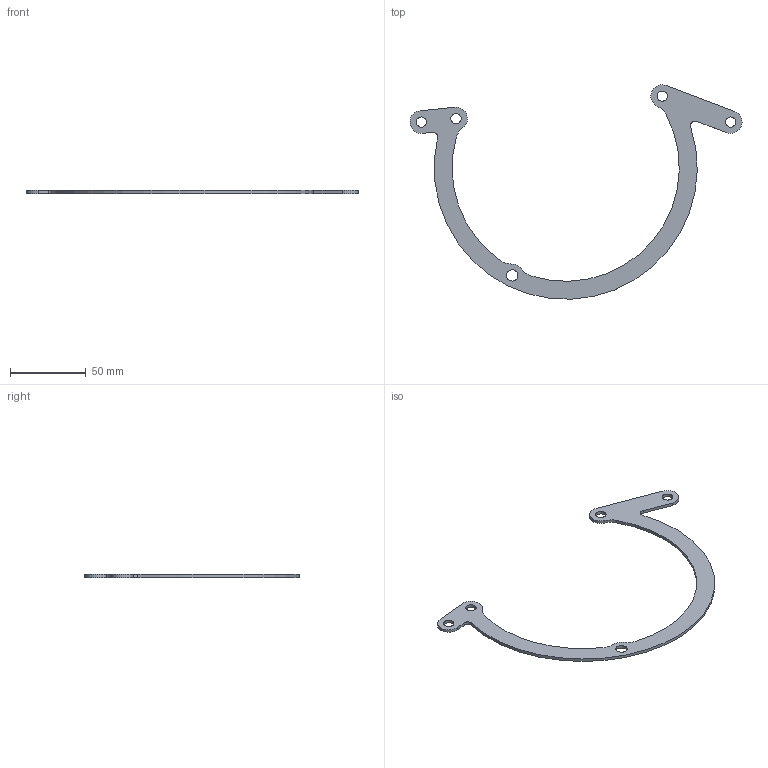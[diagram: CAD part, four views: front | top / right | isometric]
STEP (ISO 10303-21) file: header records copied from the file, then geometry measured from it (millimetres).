
FILE_DESCRIPTION (( 'STEP AP214' ), '1' );
FILE_NAME ('RC51 (SP2) - SPAL Bracket(L).STEP', '2025-09-02T18:18:09', ( '' ), ( '' ), 'SwSTEP 2.0', 'SolidWorks 2020', '' );
FILE_SCHEMA (( 'AUTOMOTIVE_DESIGN' ));
Length unit declared in the file: millimetre
Products named in the file (1): RC51 (SP2) - SPAL Bracket(L)
Bounding box: 219.23 x 141.57 x 1.98 mm (x, y, z)
Volume: 9989.3 mm3; surface area: 11944.2 mm2
Topology: 1 solids, 1 shells, 25 faces, 69 edges, 46 vertices
Faces by surface type: cylinder 19, plane 6
Full cylindrical faces by diameter (mm): 6.75 x4, 7.5 x1
Entity records: 850 total; most frequent: DIRECTION 154, CARTESIAN_POINT 136, ORIENTED_EDGE 128, AXIS2_PLACEMENT_3D 64, EDGE_CURVE 64, VERTEX_POINT 46, EDGE_LOOP 40, CIRCLE 38
